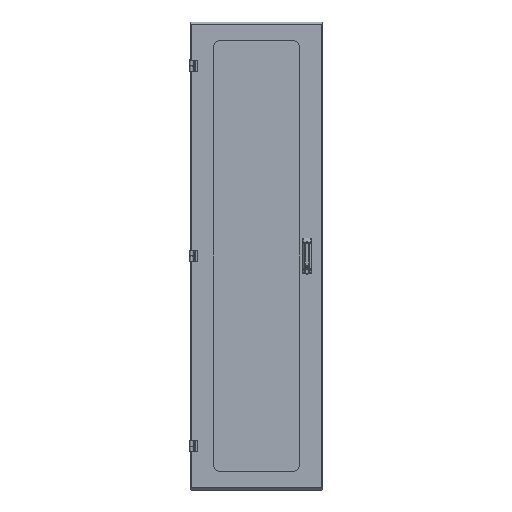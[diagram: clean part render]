
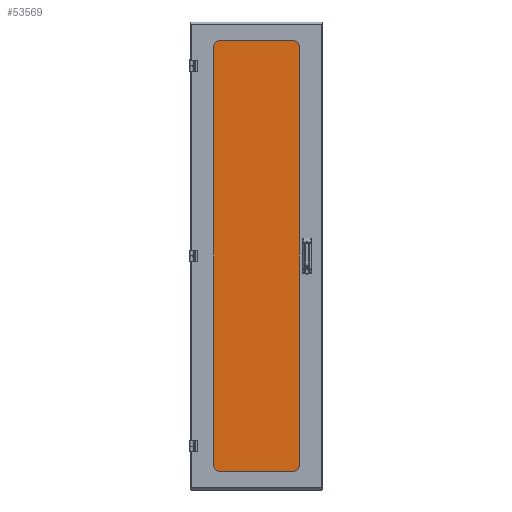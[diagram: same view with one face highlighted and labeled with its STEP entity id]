
A CAD part, front view. The second image highlights one B-rep face of the part: STEP entity #53569.
In plain terms, the highlighted planar face has unit normal (0, -1, 0).
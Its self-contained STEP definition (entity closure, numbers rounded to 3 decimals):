
#8535=ORIENTED_EDGE('',*,*,#22887,.T.);
#8536=ORIENTED_EDGE('',*,*,#22891,.T.);
#8537=ORIENTED_EDGE('',*,*,#22894,.T.);
#8538=ORIENTED_EDGE('',*,*,#22897,.T.);
#22887=EDGE_CURVE('',#30364,#30365,#35523,.T.);
#22891=EDGE_CURVE('',#30365,#30368,#35527,.T.);
#22894=EDGE_CURVE('',#30368,#30370,#35530,.T.);
#22897=EDGE_CURVE('',#30370,#30364,#35533,.T.);
#30364=VERTEX_POINT('',#80040);
#30365=VERTEX_POINT('',#80041);
#30368=VERTEX_POINT('',#80049);
#30370=VERTEX_POINT('',#80055);
#35523=LINE('',#80039,#40320);
#35527=LINE('',#80048,#40324);
#35530=LINE('',#80054,#40327);
#35533=LINE('',#80060,#40330);
#40320=VECTOR('',#64325,1000.);
#40324=VECTOR('',#64331,1000.);
#40327=VECTOR('',#64336,1000.);
#40330=VECTOR('',#64341,1000.);
#44868=EDGE_LOOP('',(#8535,#8536,#8537,#8538));
#48369=FACE_BOUND('',#44868,.T.);
#51521=PLANE('',#57330);
#53569=ADVANCED_FACE('',(#48369),#51521,.T.);
#57330=AXIS2_PLACEMENT_3D('',#80063,#64345,#64346);
#64325=DIRECTION('',(0.,0.,-1.));
#64331=DIRECTION('',(1.,0.,0.));
#64336=DIRECTION('',(0.,0.,1.));
#64341=DIRECTION('',(-1.,0.,0.));
#64345=DIRECTION('',(0.,-1.,0.));
#64346=DIRECTION('',(0.,0.,-1.));
#80039=CARTESIAN_POINT('',(-201.613,0.,969.963));
#80040=CARTESIAN_POINT('',(-201.613,0.,969.963));
#80041=CARTESIAN_POINT('',(-201.613,0.,-969.963));
#80048=CARTESIAN_POINT('',(-201.613,0.,-969.963));
#80049=CARTESIAN_POINT('',(201.613,0.,-969.963));
#80054=CARTESIAN_POINT('',(201.613,0.,-969.963));
#80055=CARTESIAN_POINT('',(201.613,0.,969.963));
#80060=CARTESIAN_POINT('',(201.613,0.,969.963));
#80063=CARTESIAN_POINT('',(-201.613,0.,-969.963));
